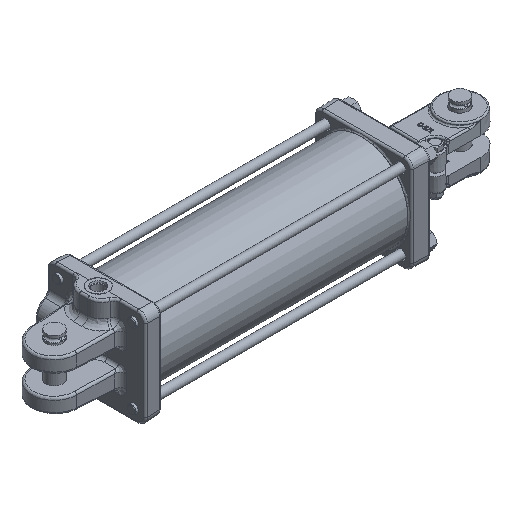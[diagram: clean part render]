
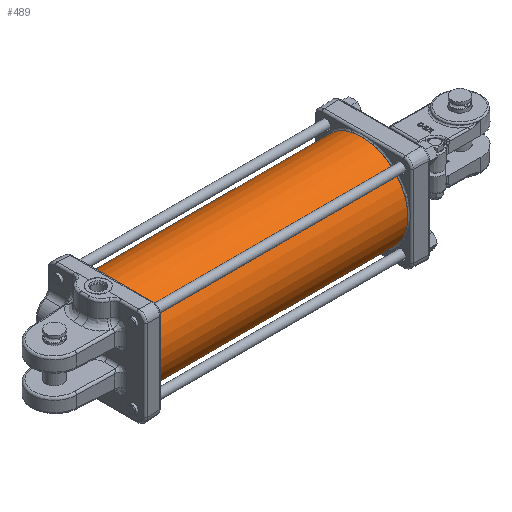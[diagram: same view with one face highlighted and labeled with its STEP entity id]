
A CAD part, isometric view. The second image highlights one B-rep face of the part: STEP entity #489.
In plain terms, the highlighted cylindrical face has radius 69.85 mm (diameter 139.7 mm), a full revolution.
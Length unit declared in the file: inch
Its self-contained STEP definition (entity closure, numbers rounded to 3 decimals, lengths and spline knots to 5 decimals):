
#169=CARTESIAN_POINT('',(-1.0835,2.75,0.));
#170=VERTEX_POINT('',#169);
#171=CARTESIAN_POINT('',(-0.9745,2.75,0.));
#172=VERTEX_POINT('',#171);
#173=CARTESIAN_POINT('',(-1.0835,2.75,0.));
#174=CARTESIAN_POINT('',(-1.0835,2.75,-0.00684));
#175=CARTESIAN_POINT('',(-1.08213,2.74997,-0.01414));
#176=CARTESIAN_POINT('',(-1.07657,2.74987,-0.02757));
#177=CARTESIAN_POINT('',(-1.07238,2.7498,-0.0337));
#178=CARTESIAN_POINT('',(-1.0627,2.74966,-0.04338));
#179=CARTESIAN_POINT('',(-1.05657,2.74959,-0.04757));
#180=CARTESIAN_POINT('',(-1.04314,2.74949,-0.05313));
#181=CARTESIAN_POINT('',(-1.03584,2.74946,-0.0545));
#182=CARTESIAN_POINT('',(-1.02216,2.74946,-0.0545));
#183=CARTESIAN_POINT('',(-1.01486,2.74949,-0.05313));
#184=CARTESIAN_POINT('',(-1.00143,2.74959,-0.04757));
#185=CARTESIAN_POINT('',(-0.9953,2.74966,-0.04338));
#186=CARTESIAN_POINT('',(-0.98562,2.7498,-0.0337));
#187=CARTESIAN_POINT('',(-0.98143,2.74987,-0.02757));
#188=CARTESIAN_POINT('',(-0.97587,2.74997,-0.01414));
#189=CARTESIAN_POINT('',(-0.9745,2.75,-0.00684));
#190=CARTESIAN_POINT('',(-0.9745,2.75,0.));
#191=B_SPLINE_CURVE_WITH_KNOTS('',3,(#173,#174,#175,#176,#177,#178,#179,#180,#181,#182,#183,#184,#185,#186,#187,#188,#189,#190),.UNSPECIFIED.,.F.,.U.,(4,2,2,2,2,2,2,2,4),(0.20858,0.26073,0.31288,0.36502,0.41717,0.46932,0.52146,0.57361,0.62575),.UNSPECIFIED.);
#192=EDGE_CURVE('',#170,#172,#191,.T.);
#194=CARTESIAN_POINT('',(-0.9745,2.75,0.));
#195=CARTESIAN_POINT('',(-0.9745,2.75,0.00684));
#196=CARTESIAN_POINT('',(-0.97587,2.74997,0.01414));
#197=CARTESIAN_POINT('',(-0.98143,2.74987,0.02757));
#198=CARTESIAN_POINT('',(-0.98562,2.7498,0.0337));
#199=CARTESIAN_POINT('',(-0.9953,2.74966,0.04338));
#200=CARTESIAN_POINT('',(-1.00143,2.74959,0.04757));
#201=CARTESIAN_POINT('',(-1.01486,2.74949,0.05313));
#202=CARTESIAN_POINT('',(-1.02216,2.74946,0.0545));
#203=CARTESIAN_POINT('',(-1.029,2.74946,0.0545));
#204=CARTESIAN_POINT('',(-1.03584,2.74946,0.0545));
#205=CARTESIAN_POINT('',(-1.04314,2.74949,0.05313));
#206=CARTESIAN_POINT('',(-1.05657,2.74959,0.04757));
#207=CARTESIAN_POINT('',(-1.0627,2.74966,0.04338));
#208=CARTESIAN_POINT('',(-1.07238,2.7498,0.0337));
#209=CARTESIAN_POINT('',(-1.07657,2.74987,0.02757));
#210=CARTESIAN_POINT('',(-1.08213,2.74997,0.01414));
#211=CARTESIAN_POINT('',(-1.0835,2.75,0.00684));
#212=CARTESIAN_POINT('',(-1.0835,2.75,0.));
#213=B_SPLINE_CURVE_WITH_KNOTS('',3,(#194,#195,#196,#197,#198,#199,#200,#201,#202,#203,#204,#205,#206,#207,#208,#209,#210,#211,#212),.UNSPECIFIED.,.F.,.U.,(4,2,2,2,3,2,2,2,4),(0.62575,0.6779,0.73005,0.78219,0.83434,0.88649,0.93863,0.99078,1.04292),.UNSPECIFIED.);
#214=EDGE_CURVE('',#172,#170,#213,.T.);
#265=CARTESIAN_POINT('',(-1.439,2.75,0.));
#266=VERTEX_POINT('',#265);
#267=CARTESIAN_POINT('',(-1.379,2.75,0.0));
#268=VERTEX_POINT('',#267);
#269=CARTESIAN_POINT('',(-1.439,2.75,0.));
#270=CARTESIAN_POINT('',(-1.439,2.75,-0.00377));
#271=CARTESIAN_POINT('',(-1.43825,2.74999,-0.00778));
#272=CARTESIAN_POINT('',(-1.43519,2.74996,-0.01518));
#273=CARTESIAN_POINT('',(-1.43288,2.74994,-0.01855));
#274=CARTESIAN_POINT('',(-1.42755,2.7499,-0.02388));
#275=CARTESIAN_POINT('',(-1.42418,2.74988,-0.02619));
#276=CARTESIAN_POINT('',(-1.41678,2.74984,-0.02925));
#277=CARTESIAN_POINT('',(-1.41277,2.74984,-0.03));
#278=CARTESIAN_POINT('',(-1.40523,2.74984,-0.03));
#279=CARTESIAN_POINT('',(-1.40122,2.74984,-0.02925));
#280=CARTESIAN_POINT('',(-1.39382,2.74988,-0.02619));
#281=CARTESIAN_POINT('',(-1.39045,2.7499,-0.02388));
#282=CARTESIAN_POINT('',(-1.38512,2.74994,-0.01855));
#283=CARTESIAN_POINT('',(-1.38281,2.74996,-0.01518));
#284=CARTESIAN_POINT('',(-1.37975,2.74999,-0.00778));
#285=CARTESIAN_POINT('',(-1.379,2.75,-0.00377));
#286=CARTESIAN_POINT('',(-1.379,2.75,0.));
#287=B_SPLINE_CURVE_WITH_KNOTS('',3,(#269,#270,#271,#272,#273,#274,#275,#276,#277,#278,#279,#280,#281,#282,#283,#284,#285,#286),.UNSPECIFIED.,.F.,.U.,(4,2,2,2,2,2,2,2,4),(0.11482,0.14352,0.17222,0.20093,0.22963,0.25833,0.28704,0.31574,0.34445),.UNSPECIFIED.);
#288=EDGE_CURVE('',#266,#268,#287,.T.);
#290=CARTESIAN_POINT('',(-1.379,2.75,0.));
#291=CARTESIAN_POINT('',(-1.379,2.75,0.00377));
#292=CARTESIAN_POINT('',(-1.37975,2.74999,0.00778));
#293=CARTESIAN_POINT('',(-1.38281,2.74996,0.01518));
#294=CARTESIAN_POINT('',(-1.38512,2.74994,0.01855));
#295=CARTESIAN_POINT('',(-1.39045,2.7499,0.02388));
#296=CARTESIAN_POINT('',(-1.39382,2.74988,0.02619));
#297=CARTESIAN_POINT('',(-1.40122,2.74984,0.02925));
#298=CARTESIAN_POINT('',(-1.40523,2.74984,0.03));
#299=CARTESIAN_POINT('',(-1.409,2.74984,0.03));
#300=CARTESIAN_POINT('',(-1.41277,2.74984,0.03));
#301=CARTESIAN_POINT('',(-1.41678,2.74984,0.02925));
#302=CARTESIAN_POINT('',(-1.42418,2.74988,0.02619));
#303=CARTESIAN_POINT('',(-1.42755,2.7499,0.02388));
#304=CARTESIAN_POINT('',(-1.43288,2.74994,0.01855));
#305=CARTESIAN_POINT('',(-1.43519,2.74996,0.01518));
#306=CARTESIAN_POINT('',(-1.43825,2.74999,0.00778));
#307=CARTESIAN_POINT('',(-1.439,2.75,0.00377));
#308=CARTESIAN_POINT('',(-1.439,2.75,0.));
#309=B_SPLINE_CURVE_WITH_KNOTS('',3,(#290,#291,#292,#293,#294,#295,#296,#297,#298,#299,#300,#301,#302,#303,#304,#305,#306,#307,#308),.UNSPECIFIED.,.F.,.U.,(4,2,2,2,3,2,2,2,4),(0.34445,0.37315,0.40185,0.43056,0.45926,0.48796,0.51667,0.54537,0.57408),.UNSPECIFIED.);
#310=EDGE_CURVE('',#268,#266,#309,.T.);
#415=CARTESIAN_POINT('',(-14.843,2.75,0.));
#416=VERTEX_POINT('',#415);
#417=CARTESIAN_POINT('',(-14.843,0.0,0.0));
#418=DIRECTION('',(1.0,0.0,0.0));
#419=DIRECTION('',(0.0,-1.0,0.0));
#420=AXIS2_PLACEMENT_3D('',#417,#418,#419);
#421=CIRCLE('',#420,2.75);
#422=EDGE_CURVE('',#416,#416,#421,.T.);
#455=CARTESIAN_POINT('',(0.0,2.75,0.));
#456=VERTEX_POINT('',#455);
#457=CARTESIAN_POINT('',(0.0,0.0,0.0));
#458=DIRECTION('',(-1.0,0.0,0.0));
#459=DIRECTION('',(0.0,-1.0,0.0));
#460=AXIS2_PLACEMENT_3D('',#457,#458,#459);
#461=CIRCLE('',#460,2.75);
#462=EDGE_CURVE('',#456,#456,#461,.T.);
#470=CARTESIAN_POINT('',(0.0,0.0,0.0));
#471=DIRECTION('',(-1.0,0.0,0.0));
#472=DIRECTION('',(0.0,-1.0,0.0));
#473=AXIS2_PLACEMENT_3D('',#470,#471,#472);
#474=CYLINDRICAL_SURFACE('',#473,2.75);
#475=ORIENTED_EDGE('',*,*,#422,.T.);
#476=EDGE_LOOP('',(#475));
#477=FACE_OUTER_BOUND('',#476,.T.);
#478=ORIENTED_EDGE('',*,*,#192,.T.);
#479=ORIENTED_EDGE('',*,*,#214,.T.);
#480=EDGE_LOOP('',(#478,#479));
#481=FACE_BOUND('',#480,.T.);
#482=ORIENTED_EDGE('',*,*,#288,.T.);
#483=ORIENTED_EDGE('',*,*,#310,.T.);
#484=EDGE_LOOP('',(#482,#483));
#485=FACE_BOUND('',#484,.T.);
#486=ORIENTED_EDGE('',*,*,#462,.T.);
#487=EDGE_LOOP('',(#486));
#488=FACE_BOUND('',#487,.T.);
#489=ADVANCED_FACE('',(#477,#481,#485,#488),#474,.T.);
